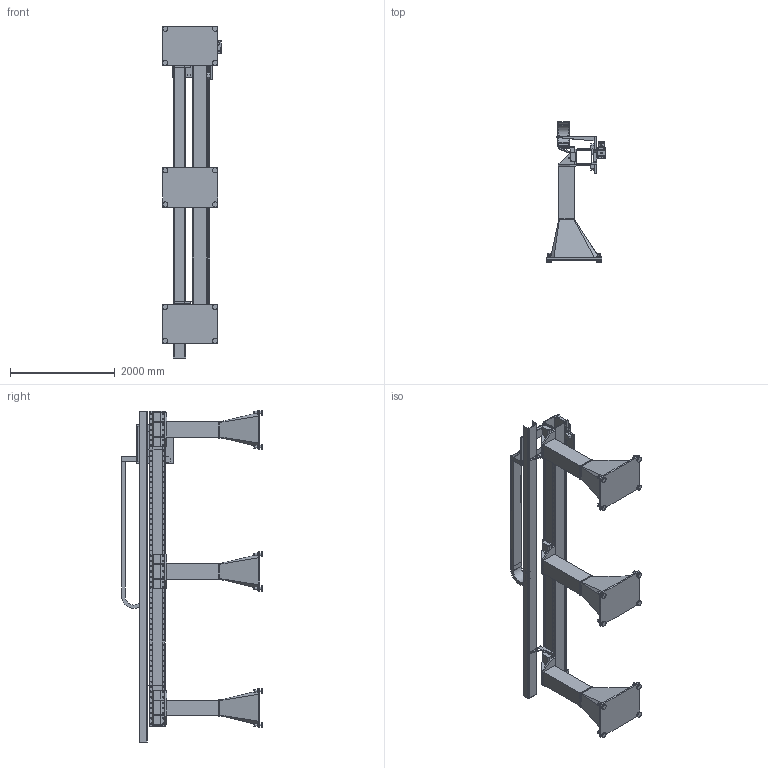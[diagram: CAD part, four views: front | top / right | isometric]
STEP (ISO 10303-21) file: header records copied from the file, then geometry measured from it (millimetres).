
FILE_DESCRIPTION (( 'STEP AP203' ), '1' );
FILE_NAME ('EP-5_V4_10-00000623-001.STEP', '2019-10-23T07:04:31', ( '' ), ( '' ), 'SwSTEP 2.0', 'SolidWorks 2017', '' );
FILE_SCHEMA (( 'CONFIG_CONTROL_DESIGN' ));
Length unit declared in the file: millimetre
Products named in the file (13): EP-5_V4_10-00000623-001; 10-00000623-020_.; 10-00000623-004_.; 10-00000623-008_.; 10-00000623-016_.; 10-00000623-015_.; 10-00000623-011_.; 10-00000623-014_.; 10-00000623-010_.; 10-00000623-013___mid; 10-00000623-006_.; 10-00000623-005_.
Assembly tree (16 placements, depth 4):
  EP-5_V4_10-00000623-001
    10-00000623-011_.
    10-00000623-010_.  x2
    10-00000623-006_.  x2
    10-00000623-016_.
      10-00000623-004_.
        10-00000623-004_.
        10-00000623-020_.
      10-00000623-008_.
    10-00000623-013___mid  x3
      10-00000623-015_.
      10-00000623-014_.
    10-00000623-005_.
Bounding box: 1118.3 x 2675.52 x 6325 mm (x, y, z)
Volume: 233974840.4 mm3; surface area: 47451269.4 mm2
Topology: 13 solids, 36 shells, 2523 faces, 6450 edges, 4138 vertices
Faces by surface type: plane 1340, cylinder 1015, cone 164, torus 4
Entity records: 57646 total; most frequent: CARTESIAN_POINT 11608, DIRECTION 9347, ORIENTED_EDGE 9086, EDGE_CURVE 4553, AXIS2_PLACEMENT_3D 3369, VERTEX_POINT 2928, LINE 2609, VECTOR 2609
